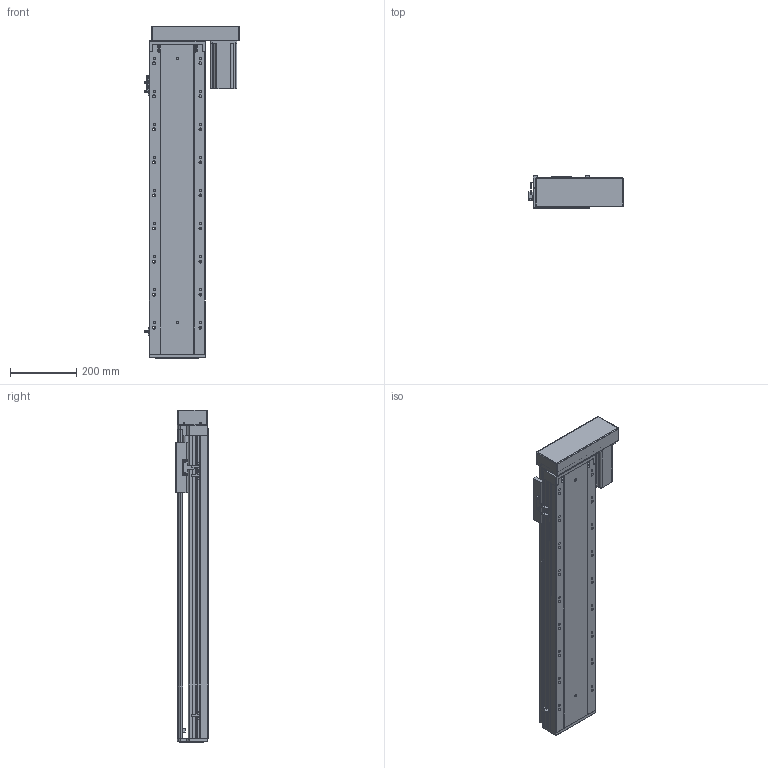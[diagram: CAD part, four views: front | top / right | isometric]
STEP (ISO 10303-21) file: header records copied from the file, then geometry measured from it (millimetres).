
FILE_DESCRIPTION (( 'STEP AP203' ), '1' );
FILE_NAME ('RY170-L2510-300-RK.SLDASM_700.step', '2021-03-12T09:19:32', ( '盈信电脑' ), ( '东莞市道滘镇水果街19号' ), 'SwSTEP 2.0', 'SolidWorks 2012', '' );
FILE_SCHEMA (( 'CONFIG_CONTROL_DESIGN' ));
Length unit declared in the file: millimetre
Products named in the file (14): 覜茼ん672; RY170外置感应片(200共用）; RY170-L2510-300-RK.SLDASM_700; RY170-左右折电机安装板750W; RY170-酘衵殏750W萇儂傷; 怢湛750W萇儂ㄗ80遺ㄘ; RY170酘衵殏萇儂欶750W; 滅袉蝶18-10; RY170转折电机端支撑座(7004); RY170綴裔啣; 滅袉蝶18-20; 改造-RY170铝滑块25丝杆螺母; RY170-300倰第菁釱-RK_700; RY170-300倰第裔啣-RK_700
Assembly tree (15 placements, depth 3):
  RY170-L2510-300-RK.SLDASM_700
    RY170-300倰第菁釱-RK_700
    改造-RY170铝滑块25丝杆螺母
    RY170-300倰第裔啣-RK_700
    RY170綴裔啣
    滅袉蝶18-20
    滅袉蝶18-10
    RY170转折电机端支撑座(7004)
    RY170-酘衵殏750W萇儂傷
      RY170-左右折电机安装板750W
      RY170酘衵殏萇儂欶750W
      怢湛750W萇儂ㄗ80遺ㄘ
    覜茼ん672  x3
    RY170外置感应片(200共用）
Bounding box: 286.2 x 97 x 1005 mm (x, y, z)
Volume: 5946268.7 mm3; surface area: 1812412.1 mm2
Topology: 14 solids, 14 shells, 2207 faces, 6374 edges, 4106 vertices
Faces by surface type: plane 1090, cylinder 932, cone 166, bspline 19
Entity records: 72291 total; most frequent: CARTESIAN_POINT 17707, ORIENTED_EDGE 11508, DIRECTION 10546, EDGE_CURVE 5754, VERTEX_POINT 3786, AXIS2_PLACEMENT_3D 3523, LINE 3500, VECTOR 3500
